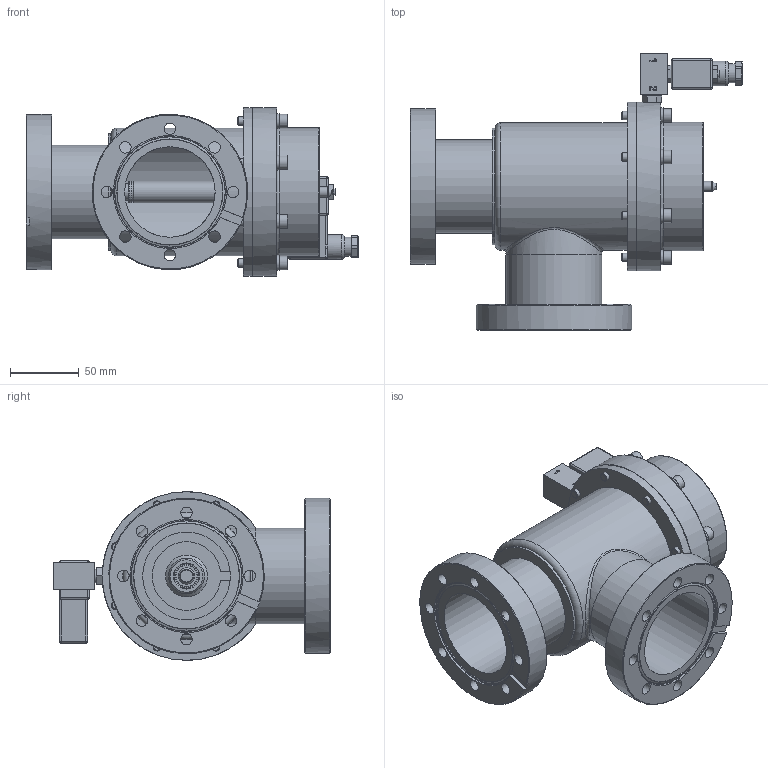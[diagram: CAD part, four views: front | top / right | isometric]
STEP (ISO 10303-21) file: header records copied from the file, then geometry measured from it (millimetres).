
FILE_DESCRIPTION(/* description */ (''),/* implementation_level */ '2;1');
FILE_NAME(/* name */ '1034586258_203.stp',/* time_stamp */ '2013-08-26T08:40:54+02:00',/* author */ (''),/* organization */ (''),/* preprocessor_version */ 'ST-DEVELOPER v11',/* originating_system */ 'SIEMENS PLM Software NX 7.5',/* authorisation */ '');
FILE_SCHEMA (('AP203_CONFIGURATION_CONTROLLED_3D_DESIGN_OF_MECHANICAL_PARTS_AND_ASSEMBLIES_MIM_LF'));
Length unit declared in the file: millimetre
Products named in the file (21): 521673_17944ID; 521665; 521644; 521643_17946ID; 467863; 467864; 206560.1; 206559.1; n-7604-110; 326371.1; 265599.2; n-6134-408; 259415.2; 243267.7; N-6013-443.2; 228776.1; 521678_MODEL; 525970; n-8501-300_MODELNX-ARRAGMNTArrangement 1; 461026; 707613
Assembly tree (37 placements, depth 4):
  707613
    228776.1  x8
    N-6013-443.2  x2
    243267.7
    259415.2
    n-6134-408  x8
    265599.2
    461026
      326371.1
      n-7604-110
      n-8501-300_MODELNX-ARRAGMNTArrangement 1
        467864
        467863
    525970
      206559.1  x2
      206560.1  x2
      521678_MODEL
        521643_17946ID
        521644
        521665
        521673_17944ID
Bounding box: 242.2 x 202 x 123 mm (x, y, z)
Volume: 663303.8 mm3; surface area: 310937.8 mm2
Topology: 49 solids, 49 shells, 679 faces, 1511 edges, 973 vertices
Faces by surface type: plane 356, cylinder 216, cone 47, torus 32, sphere 12, extrusion 10, bspline 6
Full cylindrical faces by diameter (mm): 3 x4, 3.1 x1, 3.3 x2, 4 x3, 4.5 x2, 4.6 x1, 4.7 x2, 4.96 x8, 5 x17, 5.5 x1, 6 x16, 6.4 x8, 6.5 x8, 7 x1, 7.4 x1, 7.5 x2, 8.4 x16, 8.5 x1, 8.566 x1, 9 x2, 9.728 x2, 10 x8, 10.1 x1, 11 x8, 12 x1, 14 x1, 15.975 x3, 16.5 x2, 18 x1, 18.01 x1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
Entity records: 18139 total; most frequent: CARTESIAN_POINT 3942, DIRECTION 2084, ORIENTED_EDGE 1778, EDGE_CURVE 889, AXIS2_PLACEMENT_3D 832, EDGE_LOOP 764, VERTEX_POINT 661, FACE_BOUND 521
